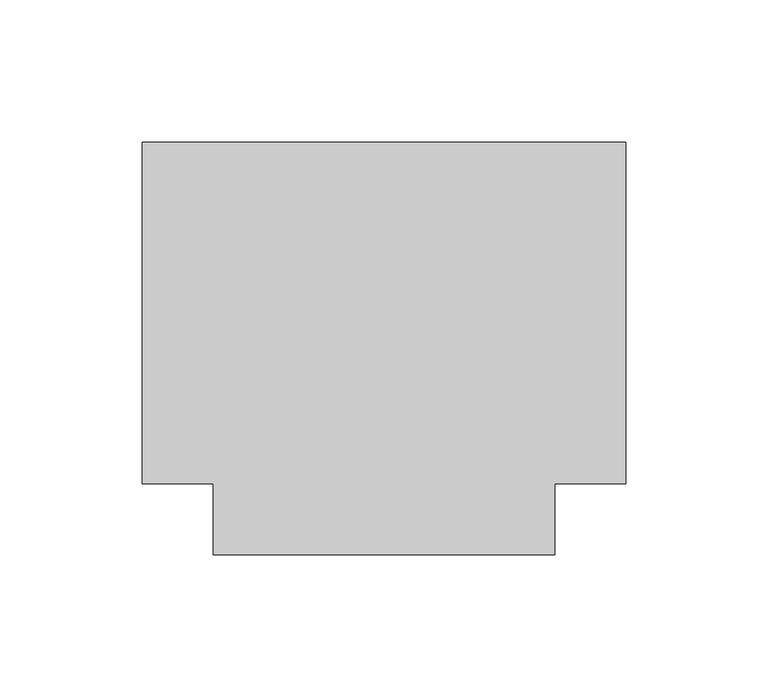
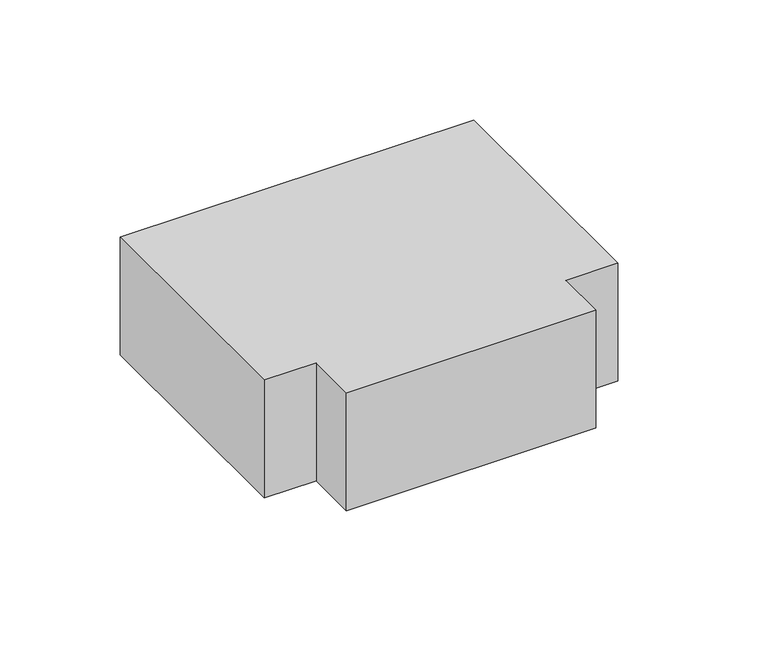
"""IFC4 building model written with IfcOpenShell, lengths in millimetres: duct fitting geometry, КНС_Тройник_DKC : Стандарт."""

import ifcopenshell
import ifcopenshell.guid

model = None  # the IFC model being written
_history = None  # IfcOwnerHistory: only IFC2X3 demands one
_inside = {}  # id of a spatial element -> (the spatial element, [elements in it])
_under = {}  # id of a project, library or spatial element -> (it, [spatial elements below it])
_declared = {}  # id of a project -> (the project, [libraries it declares])
_typed = {}  # id of a type object -> (the type object, [elements of that type])
_made_of = {}  # id of a material, layer set ... -> (it, [elements and type objects made of it])


def new_model(schema):
    """Start an empty IFC model of exactly this schema.

    Asked for "IFC4X3", IfcOpenShell would pick the latest addendum, in which some entities
    have other attributes; the version numbers below select the first issue.
    IFC2X3 requires an IfcOwnerHistory on every rooted entity: one is made here for all.
    """
    global model, _history
    if schema == "IFC4X3":
        model = ifcopenshell.file(schema_version=(4, 3, 0, 0))
    else:
        model = ifcopenshell.file(schema=schema)
    _inside.clear()
    _under.clear()
    _declared.clear()
    _typed.clear()
    _made_of.clear()
    _history = None
    if model.schema == "IFC2X3":
        org = make("IfcOrganization", Name="unknown")
        user = make(
            "IfcPersonAndOrganization",
            ThePerson=make("IfcPerson", FamilyName="unknown"),
            TheOrganization=org,
        )
        app = make(
            "IfcApplication",
            ApplicationDeveloper=org,
            Version="unknown",
            ApplicationFullName="unknown",
            ApplicationIdentifier="unknown",
        )
        _history = make(
            "IfcOwnerHistory",
            OwningUser=user,
            OwningApplication=app,
            ChangeAction="ADDED",
            CreationDate=0,
        )
    return model


def make(cls, **values):
    """One entity of the class cls with the attributes given. An attribute that is None is left unset."""
    return model.create_entity(
        cls, **{name: value for name, value in values.items() if value is not None}
    )


def rooted(cls, **values):
    """An entity with a GlobalId (a new one), such as an element, a storey or a relation."""
    return make(cls, GlobalId=ifcopenshell.guid.new(), OwnerHistory=_history, **values)


def si_unit(unit_type, name, prefix=None):
    """IfcSIUnit, for example si_unit("LENGTHUNIT", "METRE", prefix="MILLI")."""
    return make("IfcSIUnit", UnitType=unit_type, Prefix=prefix, Name=name)


def assignment(units):
    """IfcUnitAssignment: the units of a project."""
    return None if units is None else make("IfcUnitAssignment", Units=units)


def point(xyz):
    """IfcCartesianPoint."""
    return None if xyz is None else make("IfcCartesianPoint", Coordinates=xyz)


def direction(xyz):
    """IfcDirection."""
    return None if xyz is None else make("IfcDirection", DirectionRatios=xyz)


def frame(location, z_axis=None, x_axis=None):
    """IfcAxis2Placement3D, a coordinate frame: its origin and axes. An axis left out is left unset."""
    return make(
        "IfcAxis2Placement3D",
        Location=point(location),
        Axis=direction(z_axis),
        RefDirection=direction(x_axis),
    )


def origin():
    """The frame at (0, 0, 0) with its axes left unset."""
    return frame((0.0, 0.0, 0.0))


def place(relative_to, where):
    """IfcLocalPlacement: puts the frame where relative to a parent placement (None: the world)."""
    return make(
        "IfcLocalPlacement", PlacementRelTo=relative_to, RelativePlacement=where
    )


def context(
    kind, dimensions, precision=None, world=None, true_north=None, identifier=None
):
    """IfcGeometricRepresentationContext, for example the 3D "Model" context."""
    return make(
        "IfcGeometricRepresentationContext",
        ContextIdentifier=identifier,
        ContextType=kind,
        CoordinateSpaceDimension=dimensions,
        Precision=precision,
        WorldCoordinateSystem=world,
        TrueNorth=true_north,
    )


def project(units=None, contexts=None):
    """IfcProject with its units and contexts."""
    return rooted(
        "IfcProject",
        Name="project",
        RepresentationContexts=contexts,
        UnitsInContext=assignment(units),
    )


def spatial(cls, under=None, at=None, **own):
    """A site, building, storey or space (cls), placed at a placement, below another one or the project."""
    s = rooted(cls, ObjectPlacement=at, **own)
    if under is not None:
        _under.setdefault(under.id(), (under, []))[1].append(s)
    return s


def polyline(points):
    """IfcPolyline through the points."""
    return make("IfcPolyline", Points=[point(p) for p in points])


def outline(outer, holes=None, kind="AREA"):
    """IfcArbitraryClosedProfileDef: a profile drawn as a closed curve; with holes, ...WithVoids."""
    if holes is None:
        return make("IfcArbitraryClosedProfileDef", ProfileType=kind, OuterCurve=outer)
    return make(
        "IfcArbitraryProfileDefWithVoids",
        ProfileType=kind,
        OuterCurve=outer,
        InnerCurves=holes,
    )


def extrude(swept, where, along, depth):
    """IfcExtrudedAreaSolid: the profile swept, set in the frame where, extruded along a direction by depth."""
    return make(
        "IfcExtrudedAreaSolid",
        SweptArea=swept,
        Position=where,
        ExtrudedDirection=direction(along),
        Depth=depth,
    )


def shape(context_of_items, identifier, shape_type, items):
    """IfcShapeRepresentation: the items that make up one representation, for example the "Body"."""
    return make(
        "IfcShapeRepresentation",
        ContextOfItems=context_of_items,
        RepresentationIdentifier=identifier,
        RepresentationType=shape_type,
        Items=items,
    )


def source(mapping_origin, context_of_items, identifier, shape_type, items):
    """IfcRepresentationMap: a shape defined once, which mapped items show again and again."""
    return make(
        "IfcRepresentationMap",
        MappingOrigin=mapping_origin,
        MappedRepresentation=shape(context_of_items, identifier, shape_type, items),
    )


def transform(
    local_origin,
    x_axis=None,
    y_axis=None,
    z_axis=None,
    scale=None,
    scale2=None,
    scale3=None,
    uniform=True,
):
    """IfcCartesianTransformationOperator3D, or its non-uniform kind. x_axis, y_axis, z_axis: its Axis1, 2, 3."""
    if uniform:
        return make(
            "IfcCartesianTransformationOperator3D",
            Axis1=direction(x_axis),
            Axis2=direction(y_axis),
            LocalOrigin=point(local_origin),
            Scale=scale,
            Axis3=direction(z_axis),
        )
    return make(
        "IfcCartesianTransformationOperator3DnonUniform",
        Axis1=direction(x_axis),
        Axis2=direction(y_axis),
        LocalOrigin=point(local_origin),
        Scale=scale,
        Axis3=direction(z_axis),
        Scale2=scale2,
        Scale3=scale3,
    )


def mapped(mapping_source, mapping_target):
    """IfcMappedItem: shows the shape of a source again, moved by a transform."""
    return make(
        "IfcMappedItem", MappingSource=mapping_source, MappingTarget=mapping_target
    )


def made_of(thing, what):
    """Note that an element or type object is made of a material, layer set ...; save() writes the relation."""
    if what is not None:
        _made_of.setdefault(what.id(), (what, []))[1].append(thing)
    return thing


def element(
    cls,
    number,
    at=None,
    inside=None,
    cuts=None,
    type_object=None,
    material=None,
    context=None,
    identifier="Body",
    shape_type=None,
    held_by="IfcProductDefinitionShape",
    body=None,
    shapes=None,
    **own,
):
    """One element of the class cls, such as IfcWall. Its Tag is "e" and its number.

    at: its placement. inside: the storey or other place that contains it. cuts: it is an
    opening in that element (IfcRelVoidsElement). A single representation is given by context,
    identifier, shape_type and body (its items); several are given by shapes. held_by: the class
    of the entity that holds the representations. save() writes the other relations.
    """
    e = rooted(cls, Tag="e%d" % number, ObjectPlacement=at, **own)
    if body is not None:
        shapes = [shape(context, identifier, shape_type, body)]
    if shapes is not None:
        e.Representation = make(held_by, Representations=shapes)
    if inside is not None:
        _inside.setdefault(inside.id(), (inside, []))[1].append(e)
    if cuts is not None:
        rooted(
            "IfcRelVoidsElement", RelatingBuildingElement=cuts, RelatedOpeningElement=e
        )
    if type_object is not None:
        _typed.setdefault(type_object.id(), (type_object, []))[1].append(e)
    return made_of(e, material)


def aggregate(whole, parts):
    """IfcRelAggregates: a whole, such as a stair, and the parts it consists of."""
    return rooted("IfcRelAggregates", RelatingObject=whole, RelatedObjects=parts)


def save(model, path):
    """Write the relations noted so far, then the file.

    IfcRelAggregates (storeys below a building ...), IfcRelContainedInSpatialStructure (elements
    in a storey), IfcRelDefinesByType, IfcRelAssociatesMaterial and IfcRelDeclares: one each for
    every whole, place, type object, material and project.
    """
    for whole, parts in _under.values():
        aggregate(whole, parts)
    for where, things in _inside.values():
        rooted(
            "IfcRelContainedInSpatialStructure",
            RelatedElements=things,
            RelatingStructure=where,
        )
    for kind, things in _typed.values():
        rooted("IfcRelDefinesByType", RelatedObjects=things, RelatingType=kind)
    for what, things in _made_of.values():
        rooted("IfcRelAssociatesMaterial", RelatedObjects=things, RelatingMaterial=what)
    for by, libraries in _declared.values():
        rooted("IfcRelDeclares", RelatingContext=by, RelatedDefinitions=libraries)
    model.write(path)


def duct_fitting_3a38929a(model_context):
    return source(origin(), model_context, "Body", "SweptSolid", [
        extrude(outline(polyline([(-85.0, -60.0), (-85.0, 60.0), (85.0, 60.0), (85.0, -60.0), (60.0, -60.0), (60.0, -85.0), (-60.0, -85.0), (-60.0, -60.0), (-85.0, -60.0)])), frame((0.0, 0.0, -30.0), z_axis=(0.0, 0.0, 1.0), x_axis=(1.0, 0.0, 0.0)), (0.0, 0.0, 1.0), 60.0),
    ])


if __name__ == "__main__":
    model = new_model("IFC4")
    model_context = context("Model", 3, world=origin())
    ifc_project = project(units=[si_unit("LENGTHUNIT", "METRE", prefix="MILLI")], contexts=[model_context])
    site = spatial("IfcSite", under=ifc_project)
    building = spatial("IfcBuilding", under=site)
    placement = place(None, origin())
    duct_fitting_shape = duct_fitting_3a38929a(model_context)
    element("IfcDuctFitting", 1, ObjectType="КНС_Тройник_DKC : Стандарт", at=placement, inside=building, context=model_context, shape_type="MappedRepresentation", body=[
        mapped(duct_fitting_shape, transform((0.0, 0.0, 0.0), x_axis=(1.0, 0.0, 0.0), y_axis=(0.0, 1.0, 0.0), z_axis=(0.0, 0.0, 1.0))),
    ])
    save(model, "model.ifc")
